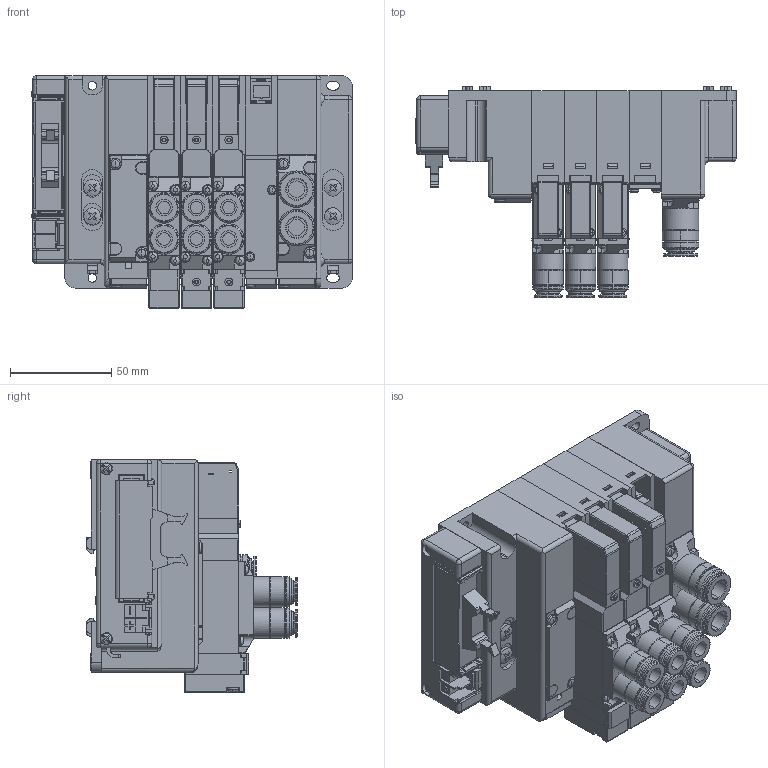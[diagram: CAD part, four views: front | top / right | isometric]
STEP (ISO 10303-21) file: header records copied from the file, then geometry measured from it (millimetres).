
FILE_DESCRIPTION( (''), '2;1');
FILE_NAME ('CVICAD02.4348.F15M4XP-JR-F10x-DN_21694.stp','2021-07-12T19:14:04',(''),(''),'spGate 12.6.6','','');
FILE_SCHEMA (('AUTOMOTIVE_DESIGN'));
Length unit declared in the file: millimetre
Products named in the file (21): Assembly; CVICAD02-prt0; CVICAD02-prt1; CVICAD02-prt2; CVICAD02-prt3; CVICAD02-prt4; CVICAD02-asm1; CVICAD02-asm2; CVICAD02-prt13; CVICAD02-prt14; CVICAD02-asm3; CVICAD02-prt5; CVICAD02-prt6; CVICAD02-prt7; CVICAD02-prt8; CVICAD02-prt9; CVICAD02-prt10; CVICAD02-prt11; CVICAD02-prt12; CVICAD02-prt15; CVICAD02-prt16
Assembly tree (35 placements, depth 3):
  Assembly
    CVICAD02-prt0  x4
    CVICAD02-prt1
    CVICAD02-prt2  x4
    CVICAD02-prt3
    CVICAD02-prt4
    CVICAD02-asm1
      CVICAD02-prt5
      CVICAD02-prt6
      CVICAD02-prt7
      CVICAD02-prt8
      CVICAD02-prt9
      CVICAD02-prt10
      CVICAD02-prt11
    CVICAD02-asm2  x2
      CVICAD02-prt5
      CVICAD02-prt6
      CVICAD02-prt7
      CVICAD02-prt9
      CVICAD02-prt12
      CVICAD02-prt10
      CVICAD02-prt11
    CVICAD02-prt13
    CVICAD02-prt14  x3
    CVICAD02-asm3
      CVICAD02-prt15
      CVICAD02-prt16
Bounding box: 158.4 x 104.2 x 115 mm (x, y, z)
Volume: 826971.9 mm3; surface area: 216025.3 mm2
Topology: 38 solids, 38 shells, 3762 faces, 9893 edges, 6368 vertices
Faces by surface type: plane 2428, cylinder 969, bspline 299, sphere 66
Entity records: 108241 total; most frequent: CARTESIAN_POINT 14065, ORIENTED_EDGE 10836, DIRECTION 10175, COLOUR_RGB 7475, PRESENTATION_STYLE_ASSIGNMENT 7475, STYLED_ITEM 7475, EDGE_CURVE 5418, DRAUGHTING_PRE_DEFINED_CURVE_FONT 5418
